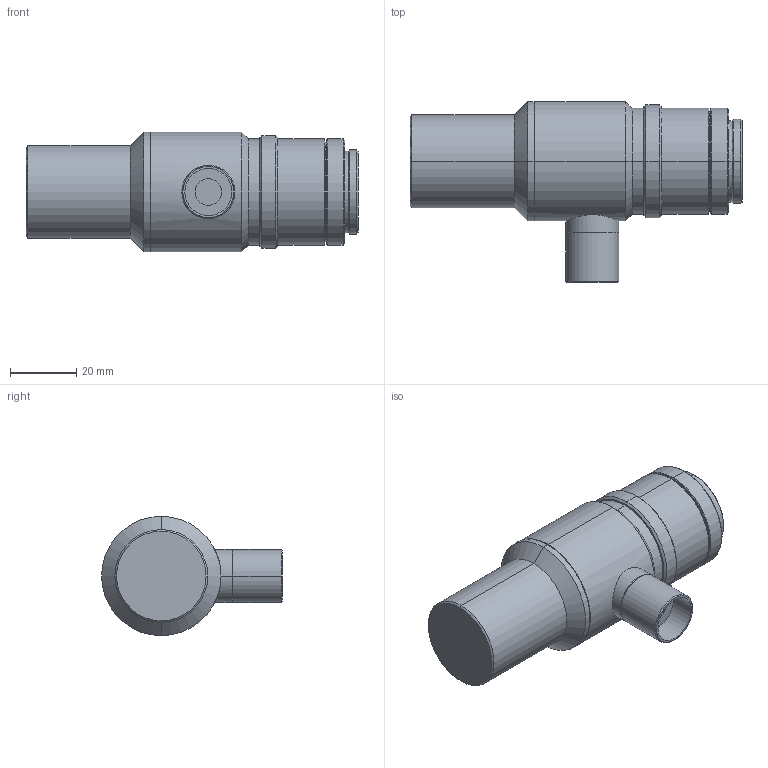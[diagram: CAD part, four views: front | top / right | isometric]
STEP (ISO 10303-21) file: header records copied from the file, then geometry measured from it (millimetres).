
FILE_DESCRIPTION (( 'STEP AP203' ), '1' );
FILE_NAME ('VS-TCM1-65CO_S.STEP', '2016-04-04T02:45:42', ( 'miura_vst' ), ( '' ), 'SwSTEP 2.0', 'SolidWorks 2016', '' );
FILE_SCHEMA (( 'CONFIG_CONTROL_DESIGN' ));
Length unit declared in the file: millimetre
Products named in the file (1): VS-TCM1-65CO_S
Bounding box: 100.1 x 54.5 x 36 mm (x, y, z)
Volume: 82541.1 mm3; surface area: 13474 mm2
Topology: 1 solids, 1 shells, 72 faces, 142 edges, 80 vertices
Faces by surface type: cone 34, cylinder 28, plane 10
Entity records: 1997 total; most frequent: CARTESIAN_POINT 387, DIRECTION 364, ORIENTED_EDGE 284, AXIS2_PLACEMENT_3D 151, EDGE_CURVE 142, EDGE_LOOP 80, VERTEX_POINT 80, CIRCLE 78
